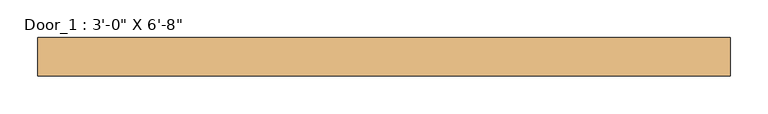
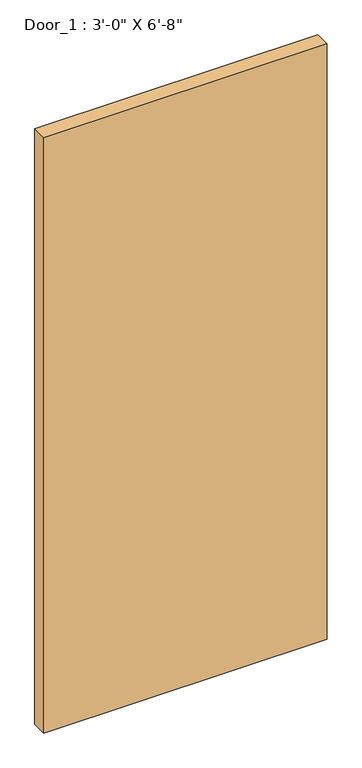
"""IFC4 building model written with IfcOpenShell, lengths in millimetres: door geometry."""

from ifc_helpers import new_model, si_unit, origin, origin_with_axes, place, context, project, spatial, polyline, outline, extrude, source, transform, mapped, element, save


def door_f2e01136(model_context):
    return source(origin(), model_context, "Body", "SweptSolid", [
        extrude(outline(polyline([(457.2, -52.5893842), (457.2, -103.3893842), (-457.2, -103.3893842), (-457.2, -52.5893842), (457.2, -52.5893842)])), origin_with_axes(), (0.0, 0.0, 1.0), 2032.0),
    ])


if __name__ == "__main__":
    model = new_model("IFC4")
    model_context = context("Model", 3, world=origin())
    ifc_project = project(units=[si_unit("LENGTHUNIT", "METRE", prefix="MILLI")], contexts=[model_context])
    site = spatial("IfcSite", under=ifc_project)
    building = spatial("IfcBuilding", under=site)
    placement = place(None, origin())
    door_shape = door_f2e01136(model_context)
    element("IfcDoor", 1, ObjectType="Door_1 : 3'-0\" X 6'-8\"", at=placement, inside=building, context=model_context, shape_type="MappedRepresentation", body=[
        mapped(door_shape, transform((0.0, 0.0, 0.0), x_axis=(1.0, 0.0, 0.0), y_axis=(0.0, 1.0, 0.0), z_axis=(0.0, 0.0, 1.0))),
    ])
    save(model, "model.ifc")
